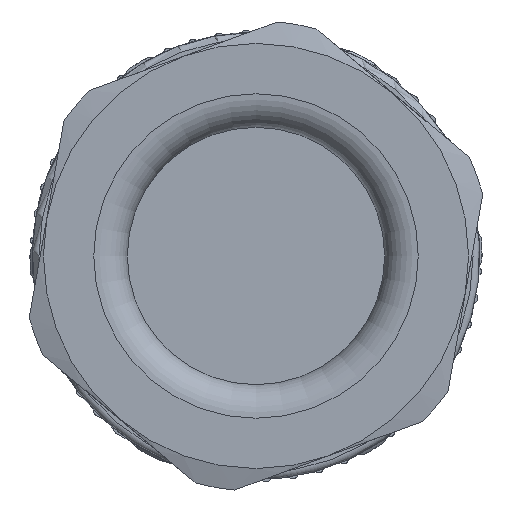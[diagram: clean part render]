
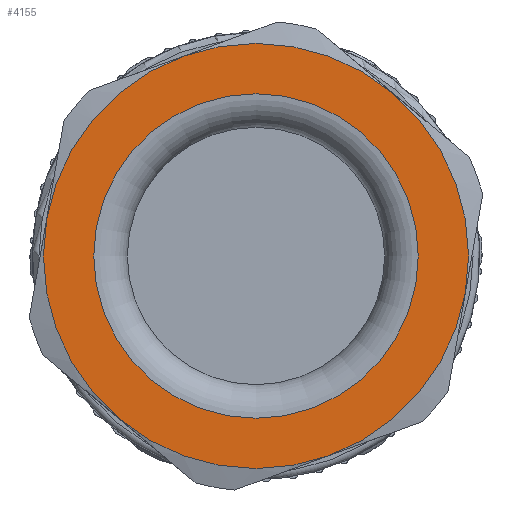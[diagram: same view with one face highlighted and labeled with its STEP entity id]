
A CAD part, left-side view. The second image highlights one B-rep face of the part: STEP entity #4155.
In plain terms, the highlighted planar face has unit normal (-1, 0, 0).
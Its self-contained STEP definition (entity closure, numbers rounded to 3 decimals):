
#1548=PLANE('',#14013);
#4155=ADVANCED_FACE('',(#4572,#4573),#1548,.T.);
#4572=FACE_BOUND('',#5327,.T.);
#4573=FACE_BOUND('',#5328,.T.);
#5327=EDGE_LOOP('',(#9053));
#5328=EDGE_LOOP('',(#9054,#9055,#9056,#9057,#9058,#9059));
#9053=ORIENTED_EDGE('',*,*,#12272,.T.);
#9054=ORIENTED_EDGE('',*,*,#12273,.T.);
#9055=ORIENTED_EDGE('',*,*,#12274,.T.);
#9056=ORIENTED_EDGE('',*,*,#12275,.T.);
#9057=ORIENTED_EDGE('',*,*,#12276,.T.);
#9058=ORIENTED_EDGE('',*,*,#12277,.T.);
#9059=ORIENTED_EDGE('',*,*,#12278,.T.);
#10389=VERTEX_POINT('',#23781);
#10390=VERTEX_POINT('',#23784);
#10391=VERTEX_POINT('',#23785);
#10392=VERTEX_POINT('',#23787);
#10393=VERTEX_POINT('',#23789);
#10394=VERTEX_POINT('',#23791);
#10395=VERTEX_POINT('',#23793);
#12272=EDGE_CURVE('',#10389,#10389,#12810,.T.);
#12273=EDGE_CURVE('',#10390,#10391,#12811,.T.);
#12274=EDGE_CURVE('',#10391,#10392,#12812,.T.);
#12275=EDGE_CURVE('',#10392,#10393,#12813,.T.);
#12276=EDGE_CURVE('',#10393,#10394,#12814,.T.);
#12277=EDGE_CURVE('',#10394,#10395,#12815,.T.);
#12278=EDGE_CURVE('',#10395,#10390,#12816,.T.);
#12810=CIRCLE('',#14005,7.25);
#12811=CIRCLE('',#14007,9.5);
#12812=CIRCLE('',#14008,9.5);
#12813=CIRCLE('',#14009,9.5);
#12814=CIRCLE('',#14010,9.5);
#12815=CIRCLE('',#14011,9.5);
#12816=CIRCLE('',#14012,9.5);
#14005=AXIS2_PLACEMENT_3D('',#23780,#17341,#17342);
#14007=AXIS2_PLACEMENT_3D('',#23783,#17345,#17346);
#14008=AXIS2_PLACEMENT_3D('',#23786,#17347,#17348);
#14009=AXIS2_PLACEMENT_3D('',#23788,#17349,#17350);
#14010=AXIS2_PLACEMENT_3D('',#23790,#17351,#17352);
#14011=AXIS2_PLACEMENT_3D('',#23792,#17353,#17354);
#14012=AXIS2_PLACEMENT_3D('',#23794,#17355,#17356);
#14013=AXIS2_PLACEMENT_3D('',#23795,#17357,#17358);
#17341=DIRECTION('',(1.,0.,0.));
#17342=DIRECTION('',(0.,0.766,0.643));
#17345=DIRECTION('',(-1.,0.,0.));
#17346=DIRECTION('',(0.,0.766,0.643));
#17347=DIRECTION('',(-1.,0.,0.));
#17348=DIRECTION('',(0.,0.766,0.643));
#17349=DIRECTION('',(-1.,0.,0.));
#17350=DIRECTION('',(0.,0.766,0.643));
#17351=DIRECTION('',(-1.,0.,0.));
#17352=DIRECTION('',(0.,0.766,0.643));
#17353=DIRECTION('',(-1.,0.,0.));
#17354=DIRECTION('',(0.,0.766,0.643));
#17355=DIRECTION('',(-1.,0.,0.));
#17356=DIRECTION('',(0.,0.766,0.643));
#17357=DIRECTION('',(-1.,0.,0.));
#17358=DIRECTION('',(0.,0.766,0.643));
#23780=CARTESIAN_POINT('',(-35.318,0.,0.));
#23781=CARTESIAN_POINT('',(-35.318,5.554,4.66));
#23783=CARTESIAN_POINT('',(-35.318,0.,0.));
#23784=CARTESIAN_POINT('',(-35.318,-9.356,-1.65));
#23785=CARTESIAN_POINT('',(-35.318,-6.106,7.277));
#23786=CARTESIAN_POINT('',(-35.318,0.,0.));
#23787=CARTESIAN_POINT('',(-35.318,3.249,8.927));
#23788=CARTESIAN_POINT('',(-35.318,0.,0.));
#23789=CARTESIAN_POINT('',(-35.318,9.356,1.65));
#23790=CARTESIAN_POINT('',(-35.318,0.,0.));
#23791=CARTESIAN_POINT('',(-35.318,6.106,-7.277));
#23792=CARTESIAN_POINT('',(-35.318,0.,0.));
#23793=CARTESIAN_POINT('',(-35.318,-3.249,-8.927));
#23794=CARTESIAN_POINT('',(-35.318,0.,0.));
#23795=CARTESIAN_POINT('',(-35.318,0.,0.));
